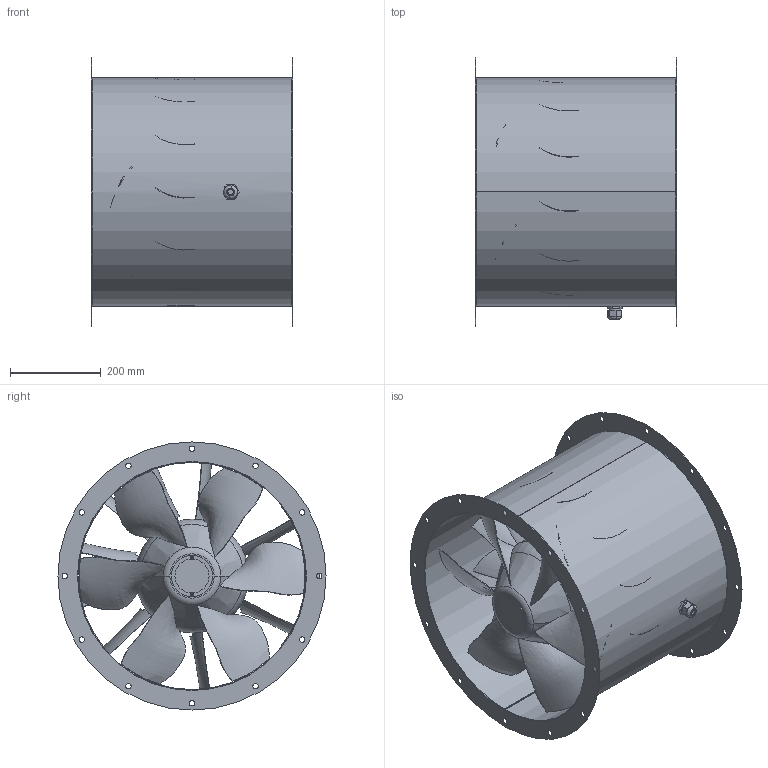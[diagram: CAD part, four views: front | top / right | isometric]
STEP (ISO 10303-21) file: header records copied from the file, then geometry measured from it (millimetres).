
FILE_DESCRIPTION (( 'STEP AP203' ), '1' );
FILE_NAME ('154111-00_AL500D401_step.step', '2020-05-29T09:24:01', ( '' ), ( '' ), 'SwSTEP 2.0', 'SolidWorks 2017', '' );
FILE_SCHEMA (( 'CONFIG_CONTROL_DESIGN' ));
Length unit declared in the file: millimetre
Products named in the file (1): 154111-00_AL500D401_step
Bounding box: 443 x 590 x 590 mm (x, y, z)
Surface area: 2512612.8 mm2 (no closed solid volume)
Topology: 0 solids, 66 shells, 916 faces, 3643 edges, 2788 vertices
Faces by surface type: plane 681, cylinder 136, bspline 56, torus 28, cone 15
Entity records: 365989 total; most frequent: CARTESIAN_POINT 337763, ORIENTED_EDGE 5391, DIRECTION 5030, EDGE_CURVE 3641, VERTEX_POINT 2788, LINE 2510, VECTOR 2510, AXIS2_PLACEMENT_3D 1260
